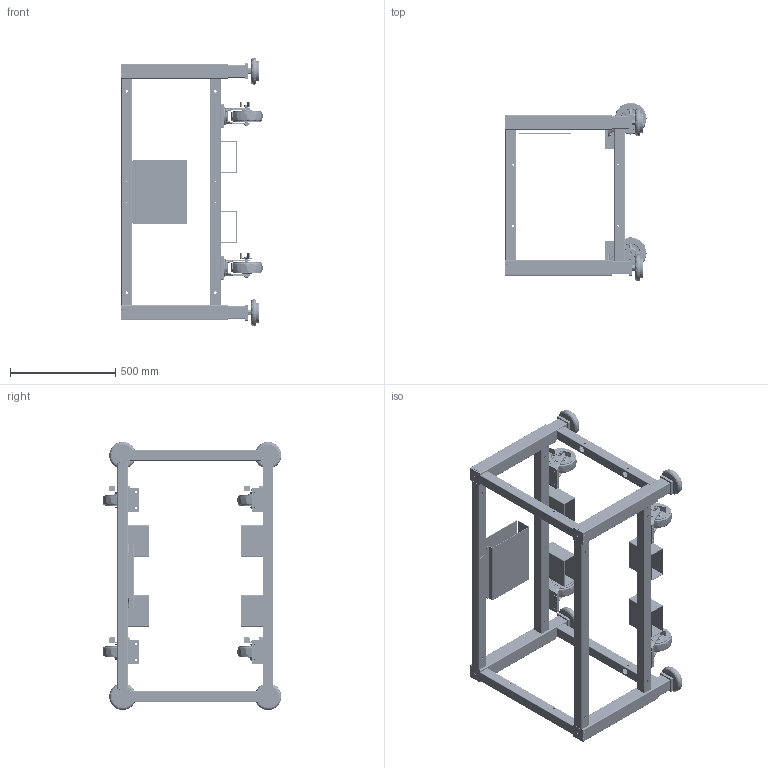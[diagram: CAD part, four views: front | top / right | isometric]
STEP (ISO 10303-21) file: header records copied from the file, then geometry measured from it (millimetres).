
FILE_DESCRIPTION (( 'STEP AP214' ), '1' );
FILE_NAME ('103262 - MB3500 48X30X26.5.STEP', '2020-01-10T14:01:53', ( '' ), ( '' ), 'SwSTEP 2.0', 'SolidWorks 2019', '' );
FILE_SCHEMA (( 'AUTOMOTIVE_DESIGN' ));
Length unit declared in the file: millimetre
Products named in the file (2): 103262 - MB3500 48X30X26.5
Bounding box: 672.34 x 850.47 x 1276.2 mm (x, y, z)
Volume: 13961906.1 mm3; surface area: 7349858.5 mm2
Topology: 126 solids, 134 shells, 4712 faces, 12892 edges, 8568 vertices
Faces by surface type: plane 2480, cylinder 1472, bspline 428, cone 328, torus 4
Full cylindrical faces by diameter (mm): 1.575 x8, 1.778 x8, 3.3 x8, 4.039 x4, 4.2 x4, 4.252 x8, 4.521 x8, 4.762 x2, 4.763 x6, 5 x16, 6.6 x4, 6.8 x32, 7 x4, 7.117 x8, 8.5 x4, 9 x8, 10.3 x8, 11 x8, 12 x16, 12.7 x12, 12.827 x12, 13.492 x4, 14.859 x4, 15.189 x4, 15.621 x4, 15.799 x4, 15.875 x12, 15.9 x4, 17.4 x16, 19.05 x4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
Entity records: 225792 total; most frequent: CARTESIAN_POINT 58292, ORIENTED_EDGE 24048, DIRECTION 22084, EDGE_CURVE 12024, VERTEX_POINT 8324, AXIS2_PLACEMENT_3D 7694, VECTOR 6696, LINE 6696
